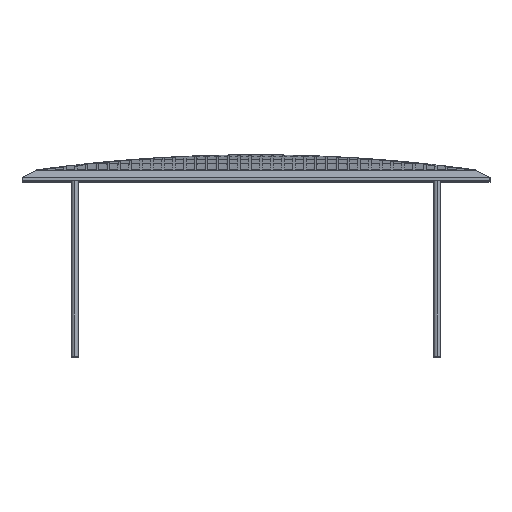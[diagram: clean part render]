
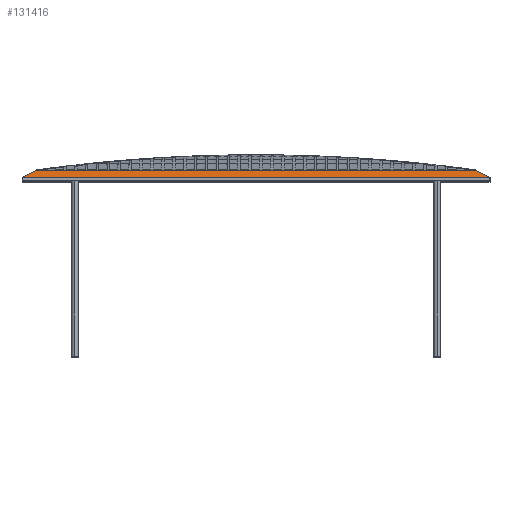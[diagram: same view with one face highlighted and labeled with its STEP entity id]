
A CAD part, top view. The second image highlights one B-rep face of the part: STEP entity #131416.
In plain terms, the highlighted planar face has unit normal (0, 0.891, 0.454).
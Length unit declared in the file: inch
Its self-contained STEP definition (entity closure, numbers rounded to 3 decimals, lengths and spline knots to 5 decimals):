
#7351 = CARTESIAN_POINT ( 'NONE',  ( -17.7, 0.25, 19.7 ) ) ;
#9824 = DIRECTION ( 'NONE',  ( 0., -0.891, -0.454 ) ) ;
#31133 = LINE ( 'NONE', #94721, #79095 ) ;
#40519 = DIRECTION ( 'NONE',  ( 0., 0.454, -0.891 ) ) ;
#43020 = AXIS2_PLACEMENT_3D ( 'NONE', #67977, #9824, #40519 ) ;
#51431 = ORIENTED_EDGE ( 'NONE', *, *, #102472, .F. ) ;
#53336 = PLANE ( 'NONE',  #43020 ) ;
#54575 = VERTEX_POINT ( 'NONE', #164990 ) ;
#55987 = LINE ( 'NONE', #80461, #88079 ) ;
#59525 = LINE ( 'NONE', #98042, #187456 ) ;
#59923 = EDGE_CURVE ( 'NONE', #60600, #153678, #31133, .T. ) ;
#60282 = EDGE_CURVE ( 'NONE', #54575, #140348, #55987, .T. ) ;
#60600 = VERTEX_POINT ( 'NONE', #7351 ) ;
#66626 = LINE ( 'NONE', #68689, #178679 ) ;
#67977 = CARTESIAN_POINT ( 'NONE',  ( -27.5, 0.25, 19.7 ) ) ;
#68689 = CARTESIAN_POINT ( 'NONE',  ( 0., 0.25, 19.7 ) ) ;
#79095 = VECTOR ( 'NONE', #108789, 39.37008 ) ;
#80461 = CARTESIAN_POINT ( 'NONE',  ( 17.7, 0.25, 19.7 ) ) ;
#82758 = DIRECTION ( 'NONE',  ( -1., 0., 0. ) ) ;
#83986 = FACE_OUTER_BOUND ( 'NONE', #189830, .T. ) ;
#88079 = VECTOR ( 'NONE', #125714, 39.37008 ) ;
#88840 = ORIENTED_EDGE ( 'NONE', *, *, #59923, .F. ) ;
#91941 = CARTESIAN_POINT ( 'NONE',  ( 17.7, 0.25, 19.7 ) ) ;
#94721 = CARTESIAN_POINT ( 'NONE',  ( -17.7, 0.25, 19.7 ) ) ;
#98042 = CARTESIAN_POINT ( 'NONE',  ( -27.5, 0.75953, 18.7 ) ) ;
#102472 = EDGE_CURVE ( 'NONE', #140348, #60600, #66626, .T. ) ;
#108789 = DIRECTION ( 'NONE',  ( 0.665, 0.339, -0.665 ) ) ;
#110268 = DIRECTION ( 'NONE',  ( 1., 0., 0. ) ) ;
#125714 = DIRECTION ( 'NONE',  ( 0.665, -0.339, 0.665 ) ) ;
#131416 = ADVANCED_FACE ( 'NONE', ( #83986 ), #53336, .F. ) ;
#133279 = CARTESIAN_POINT ( 'NONE',  ( -16.7, 0.75953, 18.7 ) ) ;
#133717 = ORIENTED_EDGE ( 'NONE', *, *, #145147, .F. ) ;
#140348 = VERTEX_POINT ( 'NONE', #91941 ) ;
#145147 = EDGE_CURVE ( 'NONE', #153678, #54575, #59525, .T. ) ;
#153678 = VERTEX_POINT ( 'NONE', #133279 ) ;
#164990 = CARTESIAN_POINT ( 'NONE',  ( 16.7, 0.75953, 18.7 ) ) ;
#174801 = ORIENTED_EDGE ( 'NONE', *, *, #60282, .F. ) ;
#178679 = VECTOR ( 'NONE', #82758, 39.37008 ) ;
#187456 = VECTOR ( 'NONE', #110268, 39.37008 ) ;
#189830 = EDGE_LOOP ( 'NONE', ( #133717, #88840, #51431, #174801 ) ) ;
